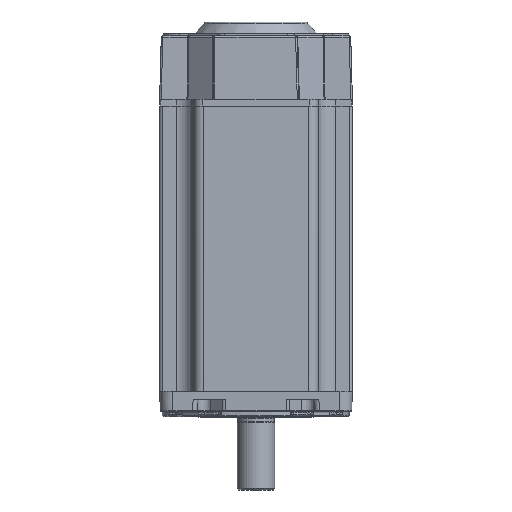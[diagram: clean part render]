
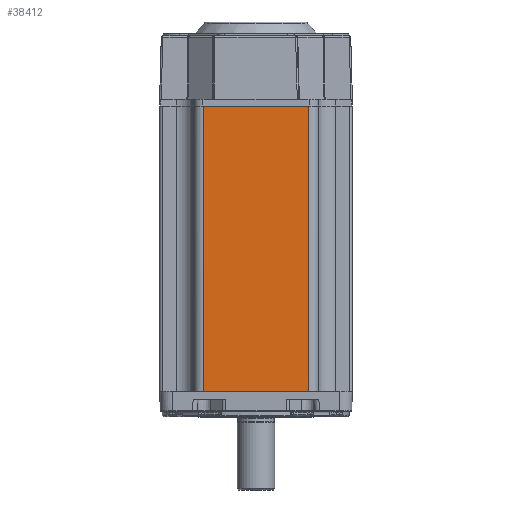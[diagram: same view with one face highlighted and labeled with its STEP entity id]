
A CAD part, front view. The second image highlights one B-rep face of the part: STEP entity #38412.
In plain terms, the highlighted planar face has unit normal (0, -1, 0).
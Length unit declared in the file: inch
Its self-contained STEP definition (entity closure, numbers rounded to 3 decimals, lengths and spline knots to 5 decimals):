
#463=CARTESIAN_POINT('',(1.058,-1.925,6.123));
#464=VERTEX_POINT('',#463);
#527=CARTESIAN_POINT('',(-1.058,-1.925,6.123));
#528=VERTEX_POINT('',#527);
#535=CARTESIAN_POINT('',(1.058,-1.925,6.123));
#536=DIRECTION('',(-1.0,0.0,0.0));
#537=VECTOR('',#536,2.116);
#538=LINE('',#535,#537);
#539=EDGE_CURVE('',#464,#528,#538,.T.);
#36597=CARTESIAN_POINT('',(1.058,-1.925,0.423));
#36598=VERTEX_POINT('',#36597);
#36599=CARTESIAN_POINT('',(1.058,-1.925,6.123));
#36600=DIRECTION('',(0.0,0.0,-1.0));
#36601=VECTOR('',#36600,5.7);
#36602=LINE('',#36599,#36601);
#36603=EDGE_CURVE('',#464,#36598,#36602,.T.);
#36730=CARTESIAN_POINT('',(-1.058,-1.925,0.423));
#36731=VERTEX_POINT('',#36730);
#36741=CARTESIAN_POINT('',(-1.058,-1.925,0.423));
#36742=DIRECTION('',(1.0,0.0,0.0));
#36743=VECTOR('',#36742,2.116);
#36744=LINE('',#36741,#36743);
#36745=EDGE_CURVE('',#36731,#36598,#36744,.T.);
#36764=CARTESIAN_POINT('',(-1.058,-1.925,0.423));
#36765=DIRECTION('',(0.0,0.0,1.0));
#36766=VECTOR('',#36765,5.7);
#36767=LINE('',#36764,#36766);
#36768=EDGE_CURVE('',#36731,#528,#36767,.T.);
#38401=CARTESIAN_POINT('',(1.245,-1.925,0.423));
#38402=DIRECTION('',(0.0,-1.0,0.0));
#38403=DIRECTION('',(0.0,0.0,-1.0));
#38404=AXIS2_PLACEMENT_3D('',#38401,#38402,#38403);
#38405=PLANE('',#38404);
#38406=ORIENTED_EDGE('',*,*,#539,.T.);
#38407=ORIENTED_EDGE('',*,*,#36768,.F.);
#38408=ORIENTED_EDGE('',*,*,#36745,.T.);
#38409=ORIENTED_EDGE('',*,*,#36603,.F.);
#38410=EDGE_LOOP('',(#38406,#38407,#38408,#38409));
#38411=FACE_OUTER_BOUND('',#38410,.T.);
#38412=ADVANCED_FACE('',(#38411),#38405,.T.);
